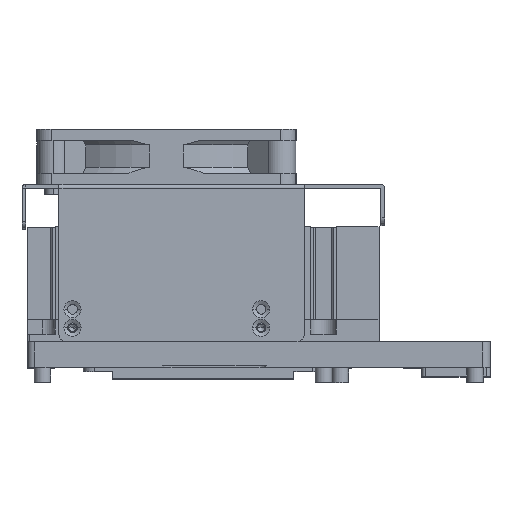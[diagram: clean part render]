
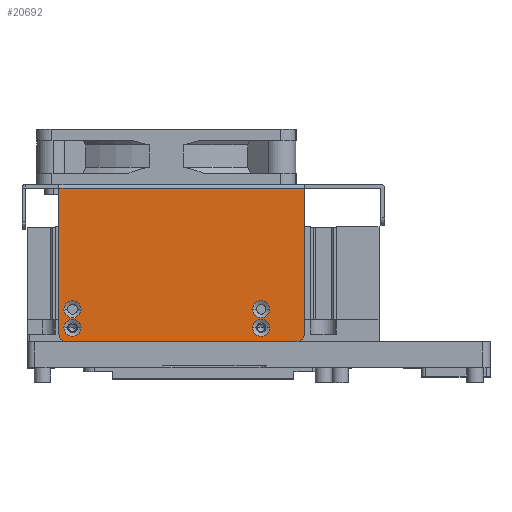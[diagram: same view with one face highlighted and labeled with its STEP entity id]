
A CAD part, top view. The second image highlights one B-rep face of the part: STEP entity #20692.
In plain terms, the highlighted planar face has unit normal (0, 0, 1) as drawn and (1, 0, 0) by its records, which use the part's own axes.
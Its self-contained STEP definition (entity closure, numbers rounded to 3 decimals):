
#18874=CARTESIAN_POINT('',(48.65,-33.75,-25.5));
#18875=DIRECTION('',(1.,0.,0.));
#18876=DIRECTION('',(0.,0.,1.));
#18877=AXIS2_PLACEMENT_3D('',#18874,#18875,#18876);
#18879=CARTESIAN_POINT('',(48.65,-33.75,-25.5));
#18880=DIRECTION('',(1.,0.,0.));
#18881=DIRECTION('',(0.,0.,-1.));
#18882=AXIS2_PLACEMENT_3D('',#18879,#18880,#18881);
#18884=CARTESIAN_POINT('',(48.65,-33.75,25.5));
#18885=DIRECTION('',(1.,0.,0.));
#18886=DIRECTION('',(0.,0.,-1.));
#18887=AXIS2_PLACEMENT_3D('',#18884,#18885,#18886);
#18889=CARTESIAN_POINT('',(48.65,-33.75,25.5));
#18890=DIRECTION('',(1.,0.,0.));
#18891=DIRECTION('',(0.,0.,1.));
#18892=AXIS2_PLACEMENT_3D('',#18889,#18890,#18891);
#18894=CARTESIAN_POINT('',(48.65,-38.75,-25.5));
#18895=DIRECTION('',(1.,0.,0.));
#18896=DIRECTION('',(0.,0.,1.));
#18897=AXIS2_PLACEMENT_3D('',#18894,#18895,#18896);
#18899=CARTESIAN_POINT('',(48.65,-38.75,-25.5));
#18900=DIRECTION('',(1.,0.,0.));
#18901=DIRECTION('',(0.,0.,-1.));
#18902=AXIS2_PLACEMENT_3D('',#18899,#18900,#18901);
#18904=CARTESIAN_POINT('',(48.65,-38.75,25.5));
#18905=DIRECTION('',(1.,0.,0.));
#18906=DIRECTION('',(0.,0.,-1.));
#18907=AXIS2_PLACEMENT_3D('',#18904,#18905,#18906);
#18909=CARTESIAN_POINT('',(48.65,-38.75,25.5));
#18910=DIRECTION('',(1.,0.,0.));
#18911=DIRECTION('',(0.,0.,1.));
#18912=AXIS2_PLACEMENT_3D('',#18909,#18910,#18911);
#18914=CARTESIAN_POINT('',(48.65,-40.5,-35.15));
#18915=DIRECTION('',(1.,0.,0.));
#18916=DIRECTION('',(0.,-1.,0.));
#18917=AXIS2_PLACEMENT_3D('',#18914,#18915,#18916);
#18919=DIRECTION('',(0.,0.,1.));
#18920=VECTOR('',#18919,62.3);
#18921=CARTESIAN_POINT('',(48.65,-42.5,-35.15));
#18922=LINE('',#18921,#18920);
#18923=CARTESIAN_POINT('',(48.65,-40.5,27.15));
#18924=DIRECTION('',(1.,0.,0.));
#18925=DIRECTION('',(0.,0.,1.));
#18926=AXIS2_PLACEMENT_3D('',#18923,#18924,#18925);
#18928=DIRECTION('',(0.,-1.,0.));
#18929=VECTOR('',#18928,39.5);
#18930=CARTESIAN_POINT('',(48.65,-1.,-37.15));
#18931=LINE('',#18930,#18929);
#19102=DIRECTION('',(0.,1.,0.));
#19103=VECTOR('',#19102,39.5);
#19104=CARTESIAN_POINT('',(48.65,-40.5,29.15));
#19105=LINE('',#19104,#19103);
#19253=DIRECTION('',(0.,0.,-1.));
#19254=VECTOR('',#19253,66.3);
#19255=CARTESIAN_POINT('',(48.65,-1.,29.15));
#19256=LINE('',#19255,#19254);
#19545=CARTESIAN_POINT('',(48.65,-40.5,29.15));
#19546=CARTESIAN_POINT('',(48.65,-1.,29.15));
#19547=VERTEX_POINT('',#19545);
#19548=VERTEX_POINT('',#19546);
#19671=CARTESIAN_POINT('',(48.65,-42.5,27.15));
#19672=VERTEX_POINT('',#19671);
#19741=CARTESIAN_POINT('',(48.65,-38.75,23.2));
#19742=VERTEX_POINT('',#19741);
#19743=CARTESIAN_POINT('',(48.65,-38.75,27.8));
#19744=VERTEX_POINT('',#19743);
#19749=CARTESIAN_POINT('',(48.65,-38.75,-23.2));
#19750=VERTEX_POINT('',#19749);
#19751=CARTESIAN_POINT('',(48.65,-38.75,-27.8));
#19752=VERTEX_POINT('',#19751);
#19773=CARTESIAN_POINT('',(48.65,-33.75,23.2));
#19774=VERTEX_POINT('',#19773);
#19775=CARTESIAN_POINT('',(48.65,-33.75,27.8));
#19776=VERTEX_POINT('',#19775);
#19781=CARTESIAN_POINT('',(48.65,-33.75,-23.2));
#19782=VERTEX_POINT('',#19781);
#19783=CARTESIAN_POINT('',(48.65,-33.75,-27.8));
#19784=VERTEX_POINT('',#19783);
#19816=CARTESIAN_POINT('',(48.65,-1.,-37.15));
#19818=VERTEX_POINT('',#19816);
#19821=CARTESIAN_POINT('',(48.65,-42.5,-35.15));
#19822=CARTESIAN_POINT('',(48.65,-40.5,-37.15));
#19823=VERTEX_POINT('',#19821);
#19824=VERTEX_POINT('',#19822);
#20651=CARTESIAN_POINT('',(48.65,0.,39.15));
#20652=DIRECTION('',(1.,0.,0.));
#20653=DIRECTION('',(0.,1.,0.));
#20654=AXIS2_PLACEMENT_3D('',#20651,#20652,#20653);
#20655=PLANE('',#20654);
#20656=ORIENTED_EDGE('',*,*,#20641,.F.);
#20658=ORIENTED_EDGE('',*,*,#20657,.T.);
#20660=ORIENTED_EDGE('',*,*,#20659,.F.);
#20662=ORIENTED_EDGE('',*,*,#20661,.T.);
#20664=ORIENTED_EDGE('',*,*,#20663,.T.);
#20665=ORIENTED_EDGE('',*,*,#20624,.T.);
#20666=EDGE_LOOP('',(#20656,#20658,#20660,#20662,#20664,#20665));
#20667=FACE_OUTER_BOUND('',#20666,.F.);
#20669=ORIENTED_EDGE('',*,*,#20668,.T.);
#20671=ORIENTED_EDGE('',*,*,#20670,.T.);
#20672=EDGE_LOOP('',(#20669,#20671));
#20673=FACE_BOUND('',#20672,.F.);
#20675=ORIENTED_EDGE('',*,*,#20674,.T.);
#20677=ORIENTED_EDGE('',*,*,#20676,.T.);
#20678=EDGE_LOOP('',(#20675,#20677));
#20679=FACE_BOUND('',#20678,.F.);
#20681=ORIENTED_EDGE('',*,*,#20680,.T.);
#20683=ORIENTED_EDGE('',*,*,#20682,.T.);
#20684=EDGE_LOOP('',(#20681,#20683));
#20685=FACE_BOUND('',#20684,.F.);
#20687=ORIENTED_EDGE('',*,*,#20686,.T.);
#20689=ORIENTED_EDGE('',*,*,#20688,.T.);
#20690=EDGE_LOOP('',(#20687,#20689));
#20691=FACE_BOUND('',#20690,.F.);
#20692=ADVANCED_FACE('',(#20667,#20673,#20679,#20685,#20691),#20655,.T.);
#18878=CIRCLE('',#18877,2.3);
#18883=CIRCLE('',#18882,2.3);
#18888=CIRCLE('',#18887,2.3);
#18893=CIRCLE('',#18892,2.3);
#18898=CIRCLE('',#18897,2.3);
#18903=CIRCLE('',#18902,2.3);
#18908=CIRCLE('',#18907,2.3);
#18913=CIRCLE('',#18912,2.3);
#18918=CIRCLE('',#18917,2.);
#18927=CIRCLE('',#18926,2.);
#20624=EDGE_CURVE('',#19818,#19824,#18931,.T.);
#20641=EDGE_CURVE('',#19823,#19824,#18918,.T.);
#20657=EDGE_CURVE('',#19823,#19672,#18922,.T.);
#20659=EDGE_CURVE('',#19547,#19672,#18927,.T.);
#20661=EDGE_CURVE('',#19547,#19548,#19105,.T.);
#20663=EDGE_CURVE('',#19548,#19818,#19256,.T.);
#20668=EDGE_CURVE('',#19774,#19776,#18888,.T.);
#20670=EDGE_CURVE('',#19776,#19774,#18893,.T.);
#20674=EDGE_CURVE('',#19750,#19752,#18898,.T.);
#20676=EDGE_CURVE('',#19752,#19750,#18903,.T.);
#20680=EDGE_CURVE('',#19742,#19744,#18908,.T.);
#20682=EDGE_CURVE('',#19744,#19742,#18913,.T.);
#20686=EDGE_CURVE('',#19782,#19784,#18878,.T.);
#20688=EDGE_CURVE('',#19784,#19782,#18883,.T.);
